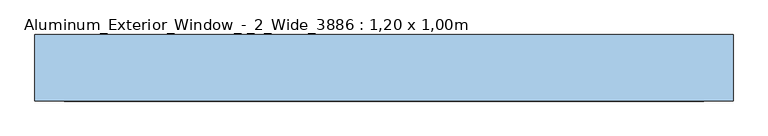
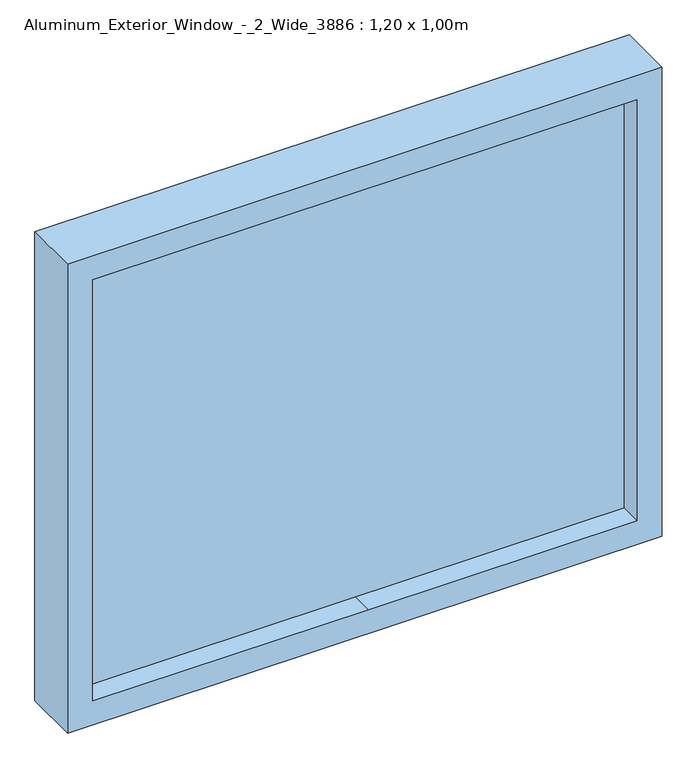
"""IFC4 building model written with IfcOpenShell, lengths in millimetres: window geometry, Aluminum_Exterior_Window_-_2_Wide_3886 : 1,20 x 1,00m."""

from ifc_helpers import new_model, si_unit, frame, origin, place, context, project, spatial, polyline, outline, extrude, source, transform, mapped, element, save


def aluminum_exterior_window_2_wide_3886_1_20_x_1_00m_ff6d45cf(model_context):
    return source(origin(), model_context, "Body", "SweptSolid", [
        extrude(outline(polyline([(2016.0, -1371.6), (1016.0, -1371.6), (1016.0, -171.6), (2016.0, -171.6), (2016.0, -1371.6)]), holes=[polyline([(1965.2, -797.0), (1965.2, -222.4), (1066.8, -222.4), (1066.8, -763.8808837), (1066.8, -1320.8), (1965.2, -1320.8), (1965.2, -797.0)])]), frame((0.0, -38.1424754, 0.0), z_axis=(0.0, 1.0, 0.0), x_axis=(0.0, 0.0, 1.0)), (0.0, 0.0, 1.0), 114.3),
        extrude(outline(polyline([(1965.2, -797.0), (1965.2, -1320.8), (1066.8, -1320.8), (1066.8, -770.891469), (1066.8, -222.4), (1965.2, -222.4), (1965.2, -797.0)])), frame((0.0, 6.3075246, 0.0), z_axis=(0.0, 1.0, 0.0), x_axis=(0.0, 0.0, 1.0)), (0.0, 0.0, 1.0), 25.4),
    ])


if __name__ == "__main__":
    model = new_model("IFC4")
    model_context = context("Model", 3, world=origin())
    ifc_project = project(units=[si_unit("LENGTHUNIT", "METRE", prefix="MILLI")], contexts=[model_context])
    site = spatial("IfcSite", under=ifc_project)
    building = spatial("IfcBuilding", under=site)
    placement = place(None, origin())
    aluminum_exterior_window_2_wide_3886_1_20_x_1_00m_shape = aluminum_exterior_window_2_wide_3886_1_20_x_1_00m_ff6d45cf(model_context)
    element("IfcWindow", 1, ObjectType="Aluminum_Exterior_Window_-_2_Wide_3886 : 1,20 x 1,00m", at=placement, inside=building, context=model_context, shape_type="MappedRepresentation", body=[
        mapped(aluminum_exterior_window_2_wide_3886_1_20_x_1_00m_shape, transform((0.0, 0.0, 0.0), x_axis=(1.0, 0.0, 0.0), y_axis=(0.0, 1.0, 0.0), z_axis=(0.0, 0.0, 1.0))),
    ])
    save(model, "model.ifc")
